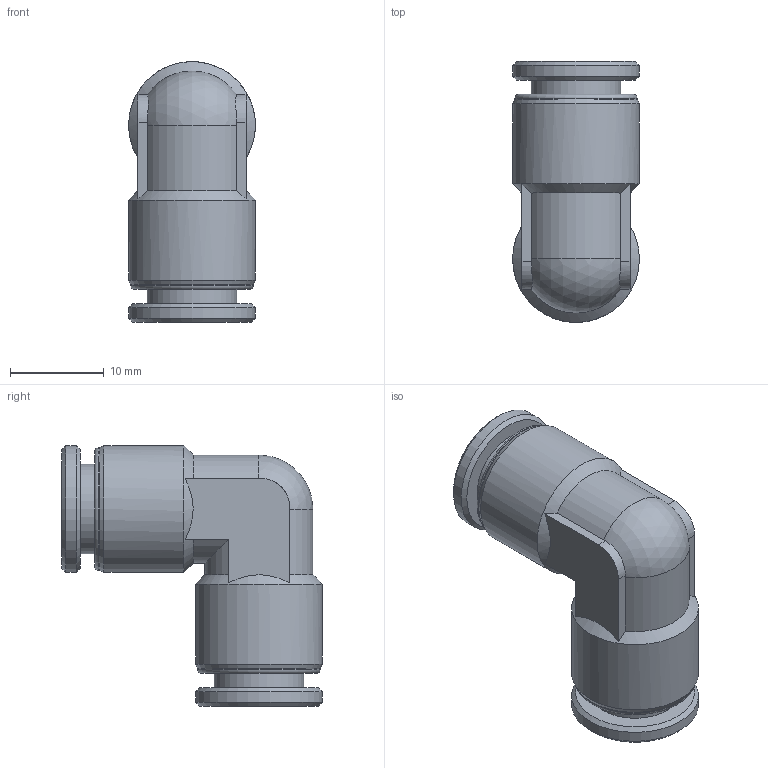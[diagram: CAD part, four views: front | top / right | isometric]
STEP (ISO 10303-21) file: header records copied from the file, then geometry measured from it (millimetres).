
FILE_DESCRIPTION(/* description */ ('STEP AP203'),/* implementation_level */ '2;1');
FILE_NAME(/* name */ 'SPV8',/* time_stamp */ '2024-07-09T05:54:14+02:00',/* author */ ('License CC BY-ND 4.0'),/* organization */ ('CADENAS'),/* preprocessor_version */ 'ST-DEVELOPER v19.3',/* originating_system */ 'PARTsolutions',/* authorisation */ ' ');
FILE_SCHEMA (('CONFIG_CONTROL_DESIGN'));
Length unit declared in the file: millimetre
Products named in the file (1): SPV8
Bounding box: 13.5 x 27.75 x 27.75 mm (x, y, z)
Volume: 3149.8 mm3; surface area: 3174.7 mm2
Topology: 1 solids, 1 shells, 48 faces, 106 edges, 66 vertices
Faces by surface type: plane 19, cylinder 18, cone 8, torus 2, sphere 1
Full cylindrical faces by diameter (mm): 6 x2, 8.3 x2, 9.5 x2, 13 x2, 13.5 x4
Entity records: 1242 total; most frequent: CARTESIAN_POINT 243, DIRECTION 210, ORIENTED_EDGE 162, AXIS2_PLACEMENT_3D 94, EDGE_CURVE 81, EDGE_LOOP 78, FACE_BOUND 78, VERTEX_POINT 63
